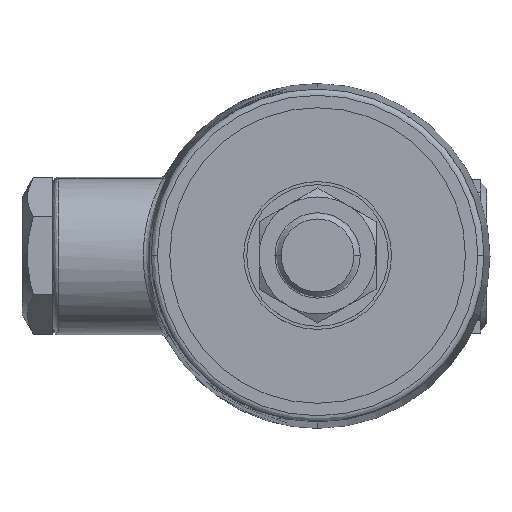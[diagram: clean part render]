
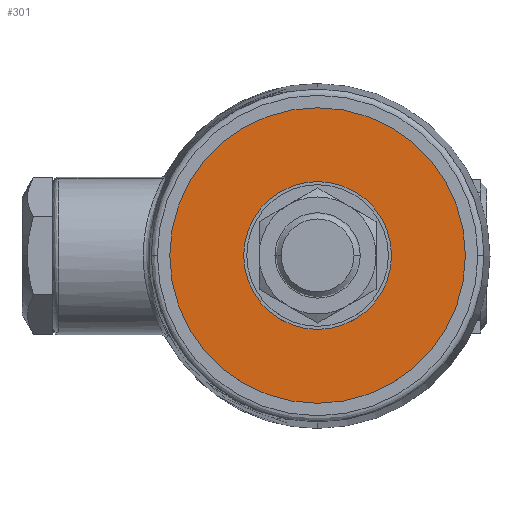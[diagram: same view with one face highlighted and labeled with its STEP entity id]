
A CAD part, top view. The second image highlights one B-rep face of the part: STEP entity #301.
In plain terms, the highlighted planar face has unit normal (0, 0, 1).
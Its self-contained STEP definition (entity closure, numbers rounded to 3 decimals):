
#301=ADVANCED_FACE('',(#1486,#1487),#1485,.F.);
#1485=PLANE('',#2746);
#1486=FACE_OUTER_BOUND('',#2747,.T.);
#1487=FACE_BOUND('',#2748,.T.);
#2743=CARTESIAN_POINT('',(55.2,-49.883,96.));
#2744=DIRECTION('',(0.,0.,-1.));
#2745=DIRECTION('',(-1.,0.,0.));
#2746=AXIS2_PLACEMENT_3D('',#2743,#2744,#2745);
#2747=EDGE_LOOP('',(#3412,#3413));
#2748=EDGE_LOOP('',(#3414,#3415));
#3412=ORIENTED_EDGE('',*,*,#3779,.F.);
#3413=ORIENTED_EDGE('',*,*,#3780,.F.);
#3414=ORIENTED_EDGE('',*,*,#3781,.T.);
#3415=ORIENTED_EDGE('',*,*,#3782,.T.);
#3779=EDGE_CURVE('',#5648,#5649,#5650,.T.);
#3780=EDGE_CURVE('',#5649,#5648,#5656,.T.);
#3781=EDGE_CURVE('',#5662,#5663,#5664,.T.);
#3782=EDGE_CURVE('',#5663,#5662,#5670,.T.);
#5648=VERTEX_POINT('',#7345);
#5649=VERTEX_POINT('',#7346);
#5650=CIRCLE('',#7350,24.);
#5656=CIRCLE('',#7354,24.);
#5662=VERTEX_POINT('',#7355);
#5663=VERTEX_POINT('',#7356);
#5664=CIRCLE('',#7360,12.);
#5670=CIRCLE('',#7364,12.);
#7345=CARTESIAN_POINT('',(24.,0.,96.));
#7346=CARTESIAN_POINT('',(-24.,0.,96.));
#7347=CARTESIAN_POINT('',(0.,0.,96.));
#7348=DIRECTION('',(0.,0.,-1.));
#7349=DIRECTION('',(-1.,0.,0.));
#7350=AXIS2_PLACEMENT_3D('',#7347,#7348,#7349);
#7351=CARTESIAN_POINT('',(0.,0.,96.));
#7352=DIRECTION('',(0.,0.,-1.));
#7353=DIRECTION('',(-1.,0.,0.));
#7354=AXIS2_PLACEMENT_3D('',#7351,#7352,#7353);
#7355=CARTESIAN_POINT('',(-12.,0.,96.));
#7356=CARTESIAN_POINT('',(12.,0.,96.));
#7357=CARTESIAN_POINT('',(0.,0.,96.));
#7358=DIRECTION('',(0.,0.,-1.));
#7359=DIRECTION('',(-1.,0.,0.));
#7360=AXIS2_PLACEMENT_3D('',#7357,#7358,#7359);
#7361=CARTESIAN_POINT('',(0.,0.,96.));
#7362=DIRECTION('',(0.,0.,-1.));
#7363=DIRECTION('',(-1.,0.,0.));
#7364=AXIS2_PLACEMENT_3D('',#7361,#7362,#7363);
